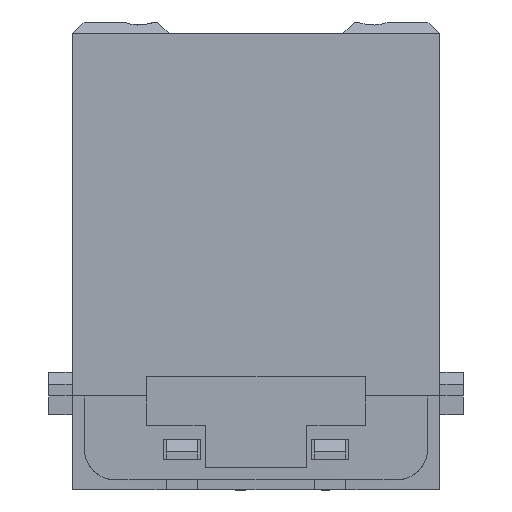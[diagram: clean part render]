
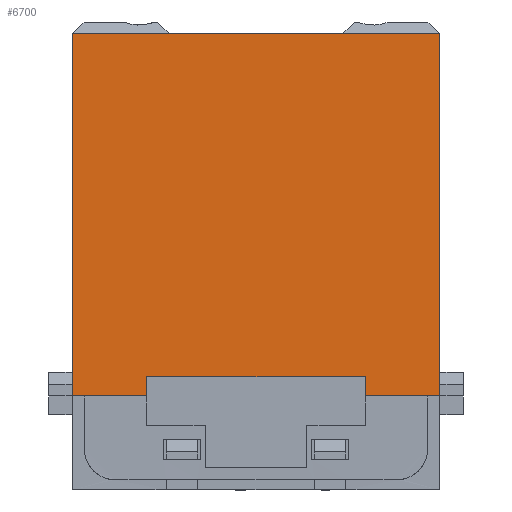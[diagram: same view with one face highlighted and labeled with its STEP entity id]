
A CAD part, left-side view. The second image highlights one B-rep face of the part: STEP entity #6700.
In plain terms, the highlighted planar face has unit normal (-1, 0, 0).
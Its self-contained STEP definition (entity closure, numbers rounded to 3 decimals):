
#5397=PLANE('',#21040);
#5885=FACE_OUTER_BOUND('',#8671,.T.);
#6700=ADVANCED_FACE('',(#5885),#5397,.T.);
#8671=EDGE_LOOP('',(#13019,#13020,#13021,#13022,#13023,#13024,#13025,#13026,
#13027,#13028));
#9353=LINE('',#25709,#10562);
#9390=LINE('',#25816,#10599);
#9431=LINE('',#25959,#10640);
#9499=LINE('',#26257,#10708);
#9615=LINE('',#26665,#10824);
#9617=LINE('',#26669,#10826);
#9620=LINE('',#26674,#10829);
#9774=LINE('',#27601,#10983);
#9782=LINE('',#27620,#10991);
#9783=LINE('',#27621,#10992);
#10562=VECTOR('',#21919,1.);
#10599=VECTOR('',#21986,1.);
#10640=VECTOR('',#22039,1.);
#10708=VECTOR('',#22145,1.);
#10824=VECTOR('',#22451,1.);
#10826=VECTOR('',#22455,1.);
#10829=VECTOR('',#22460,1.);
#10983=VECTOR('',#23334,1.);
#10991=VECTOR('',#23344,1.);
#10992=VECTOR('',#23345,1.);
#13019=ORIENTED_EDGE('',*,*,#17727,.T.);
#13020=ORIENTED_EDGE('',*,*,#17347,.T.);
#13021=ORIENTED_EDGE('',*,*,#17441,.T.);
#13022=ORIENTED_EDGE('',*,*,#18084,.T.);
#13023=ORIENTED_EDGE('',*,*,#17549,.T.);
#13024=ORIENTED_EDGE('',*,*,#18085,.T.);
#13025=ORIENTED_EDGE('',*,*,#18074,.T.);
#13026=ORIENTED_EDGE('',*,*,#17392,.T.);
#13027=ORIENTED_EDGE('',*,*,#17722,.T.);
#13028=ORIENTED_EDGE('',*,*,#17724,.T.);
#15947=VERTEX_POINT('',#25708);
#15948=VERTEX_POINT('',#25710);
#15986=VERTEX_POINT('',#25815);
#15987=VERTEX_POINT('',#25817);
#16034=VERTEX_POINT('',#25958);
#16133=VERTEX_POINT('',#26256);
#16134=VERTEX_POINT('',#26258);
#16244=VERTEX_POINT('',#26664);
#16245=VERTEX_POINT('',#26668);
#16544=VERTEX_POINT('',#27602);
#17347=EDGE_CURVE('',#15948,#15947,#9353,.T.);
#17392=EDGE_CURVE('',#15987,#15986,#9390,.T.);
#17441=EDGE_CURVE('',#15947,#16034,#9431,.T.);
#17549=EDGE_CURVE('',#16134,#16133,#9499,.T.);
#17722=EDGE_CURVE('',#15986,#16244,#9615,.T.);
#17724=EDGE_CURVE('',#16244,#16245,#9617,.T.);
#17727=EDGE_CURVE('',#16245,#15948,#9620,.T.);
#18074=EDGE_CURVE('',#16544,#15987,#9774,.T.);
#18084=EDGE_CURVE('',#16034,#16134,#9782,.T.);
#18085=EDGE_CURVE('',#16133,#16544,#9783,.T.);
#21040=AXIS2_PLACEMENT_3D('',#27622,#23346,#23347);
#21919=DIRECTION('',(0.,-1.,0.));
#21986=DIRECTION('',(0.,-1.,0.));
#22039=DIRECTION('',(0.,0.,1.));
#22145=DIRECTION('',(0.,1.,0.));
#22451=DIRECTION('',(0.,0.,1.));
#22455=DIRECTION('',(0.,-1.,0.));
#22460=DIRECTION('',(0.,0.,-1.));
#23334=DIRECTION('',(0.,0.,-1.));
#23344=DIRECTION('',(0.,1.,0.));
#23345=DIRECTION('',(0.,1.,0.));
#23346=DIRECTION('',(-1.,0.,0.));
#23347=DIRECTION('',(0.,1.,0.));
#25708=CARTESIAN_POINT('',(-7.325,-15.15,1.55));
#25709=CARTESIAN_POINT('',(-7.325,-15.25,1.55));
#25710=CARTESIAN_POINT('',(-7.325,-9.,1.55));
#25815=CARTESIAN_POINT('',(-7.325,9.,1.55));
#25816=CARTESIAN_POINT('',(-7.325,-14.5,1.55));
#25817=CARTESIAN_POINT('',(-7.325,15.15,1.55));
#25958=CARTESIAN_POINT('',(-7.325,-15.15,31.4));
#25959=CARTESIAN_POINT('',(-7.325,-15.15,32.65));
#26256=CARTESIAN_POINT('',(-7.325,7.15,31.4));
#26257=CARTESIAN_POINT('',(-7.325,-15.15,31.4));
#26258=CARTESIAN_POINT('',(-7.325,-7.15,31.4));
#26664=CARTESIAN_POINT('',(-7.325,9.,3.15));
#26665=CARTESIAN_POINT('',(-7.325,9.,-0.85));
#26668=CARTESIAN_POINT('',(-7.325,-9.,3.15));
#26669=CARTESIAN_POINT('',(-7.325,9.,3.15));
#26674=CARTESIAN_POINT('',(-7.325,-9.,3.15));
#27601=CARTESIAN_POINT('',(-7.325,15.15,32.75));
#27602=CARTESIAN_POINT('',(-7.325,15.15,31.4));
#27620=CARTESIAN_POINT('',(-7.325,-15.25,31.4));
#27621=CARTESIAN_POINT('',(-7.325,15.15,31.4));
#27622=CARTESIAN_POINT('',(-7.325,-15.25,32.75));
